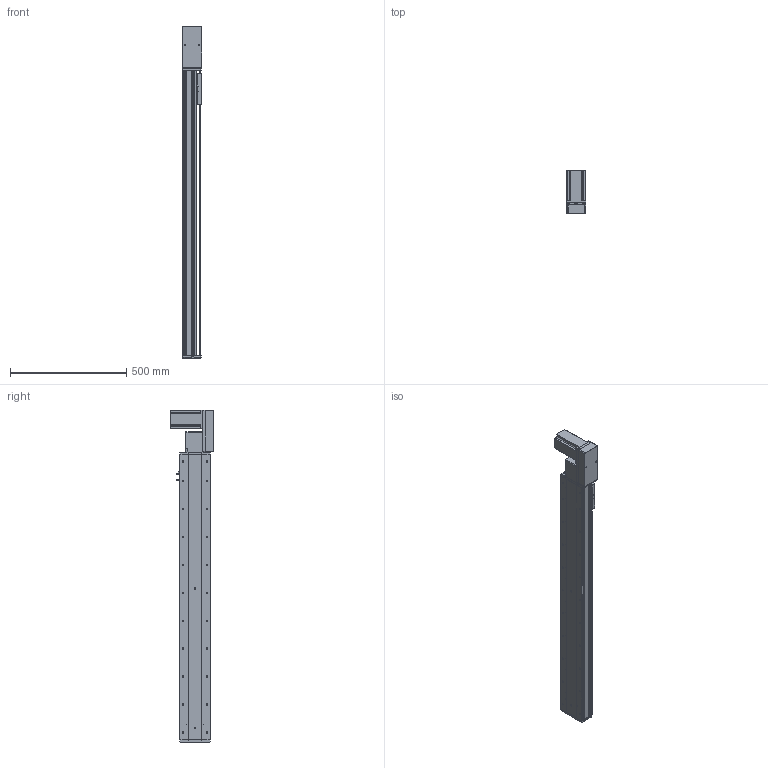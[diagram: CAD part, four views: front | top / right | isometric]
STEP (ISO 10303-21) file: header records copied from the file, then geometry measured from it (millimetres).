
FILE_DESCRIPTION (( 'STEP AP214' ), '1' );
FILE_NAME ('KSD130B-S1000-MLB-CM.STEP', '2019-09-19T07:32:26', ( '微软用户' ), ( '微软中国' ), 'SwSTEP 2.0', 'SolidWorks 2014', '' );
FILE_SCHEMA (( 'AUTOMOTIVE_DESIGN' ));
Length unit declared in the file: millimetre
Products named in the file (12): 台达ECMA－C20807AS伺服电机; 130宽模组保护罩上下左右折-同步带; 130宽模组马达安装板连板左右折同步带; U倰嫖萇EEㄜSX672; 覜茼え100遵圉猾敕; 130宽盖板半封闭同步带-1000行程; 130宽马达安装板同步带左-改; 130宽马达安装板同步带半封闭; 130宽同步带安装座半封闭; 130宽端盖同步带半封闭; 130宽底板半封闭同步带-1000行程; KSD130B-S1000-MLB-CM
Assembly tree (12 placements, depth 2):
  KSD130B-S1000-MLB-CM
    130宽底板半封闭同步带-1000行程
    130宽端盖同步带半封闭
    130宽同步带安装座半封闭
    130宽马达安装板同步带半封闭
    130宽马达安装板同步带左-改
    130宽盖板半封闭同步带-1000行程
    覜茼え100遵圉猾敕
    U倰嫖萇EEㄜSX672  x2
    130宽模组马达安装板连板左右折同步带
    130宽模组保护罩上下左右折-同步带
    台达ECMA－C20807AS伺服电机
Bounding box: 82.5 x 184.8 x 1427 mm (x, y, z)
Volume: 4986071.1 mm3; surface area: 1360123.3 mm2
Topology: 13 solids, 13 shells, 1439 faces, 4119 edges, 2623 vertices
Faces by surface type: cylinder 708, plane 556, cone 175
Entity records: 50739 total; most frequent: CARTESIAN_POINT 9451, DIRECTION 7713, ORIENTED_EDGE 7438, EDGE_CURVE 3719, AXIS2_PLACEMENT_3D 2813, VERTEX_POINT 2435, LINE 2087, VECTOR 2087
